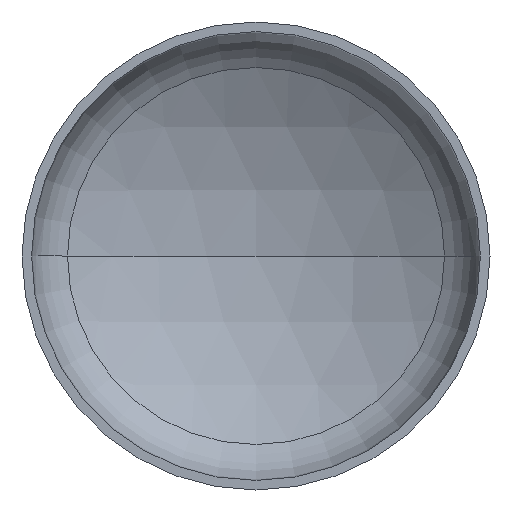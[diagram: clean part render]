
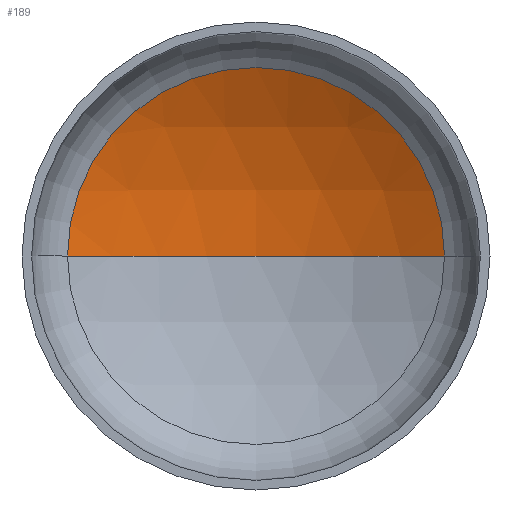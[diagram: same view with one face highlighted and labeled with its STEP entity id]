
A CAD part, front view. The second image highlights one B-rep face of the part: STEP entity #189.
In plain terms, the highlighted spherical face has radius 1760 mm.
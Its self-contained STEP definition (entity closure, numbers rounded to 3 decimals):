
#13 = VERTEX_POINT ( 'NONE', #289 ) ;
#14 = EDGE_LOOP ( 'NONE', ( #70, #344, #22 ) ) ;
#22 = ORIENTED_EDGE ( 'NONE', *, *, #209, .T. ) ;
#29 = AXIS2_PLACEMENT_3D ( 'NONE', #118, #120, #93 ) ;
#34 = VERTEX_POINT ( 'NONE', #272 ) ;
#70 = ORIENTED_EDGE ( 'NONE', *, *, #374, .F. ) ;
#93 = DIRECTION ( 'NONE',  ( 1., 0., 0. ) ) ;
#118 = CARTESIAN_POINT ( 'NONE',  ( 0., -1086.856, 0. ) ) ;
#120 = DIRECTION ( 'NONE',  ( 0., 0., 1. ) ) ;
#127 = AXIS2_PLACEMENT_3D ( 'NONE', #217, #255, #253 ) ;
#131 = AXIS2_PLACEMENT_3D ( 'NONE', #167, #186, #190 ) ;
#144 = AXIS2_PLACEMENT_3D ( 'NONE', #337, #338, #182 ) ;
#167 = CARTESIAN_POINT ( 'NONE',  ( 0., 433.754, 0. ) ) ;
#182 = DIRECTION ( 'NONE',  ( -1., 0., 0. ) ) ;
#184 = FACE_OUTER_BOUND ( 'NONE', #14, .T. ) ;
#186 = DIRECTION ( 'NONE',  ( 0., -1., 0. ) ) ;
#189 = ADVANCED_FACE ( 'NONE', ( #184 ), #377, .F. ) ;
#190 = DIRECTION ( 'NONE',  ( 1., 0., 0. ) ) ;
#209 = EDGE_CURVE ( 'NONE', #13, #397, #309, .T. ) ;
#212 = CARTESIAN_POINT ( 'NONE',  ( -886.197, 433.754, 0. ) ) ;
#217 = CARTESIAN_POINT ( 'NONE',  ( 0., -1086.856, 0. ) ) ;
#218 = EDGE_CURVE ( 'NONE', #34, #13, #250, .T. ) ;
#250 = CIRCLE ( 'NONE', #127, 1760. ) ;
#253 = DIRECTION ( 'NONE',  ( -1., 0., 0. ) ) ;
#255 = DIRECTION ( 'NONE',  ( 0., 0., -1. ) ) ;
#272 = CARTESIAN_POINT ( 'NONE',  ( 0., 673.144, 0. ) ) ;
#288 = CIRCLE ( 'NONE', #29, 1760. ) ;
#289 = CARTESIAN_POINT ( 'NONE',  ( 886.197, 433.754, 0. ) ) ;
#309 = CIRCLE ( 'NONE', #131, 886.197 ) ;
#337 = CARTESIAN_POINT ( 'NONE',  ( 0., -1086.856, 0. ) ) ;
#338 = DIRECTION ( 'NONE',  ( 0., 0., -1. ) ) ;
#344 = ORIENTED_EDGE ( 'NONE', *, *, #218, .T. ) ;
#374 = EDGE_CURVE ( 'NONE', #34, #397, #288, .T. ) ;
#377 = SPHERICAL_SURFACE ( 'NONE', #144, 1760. ) ;
#397 = VERTEX_POINT ( 'NONE', #212 ) ;
